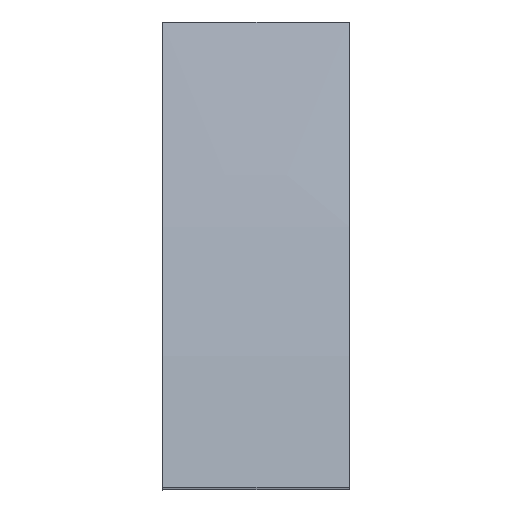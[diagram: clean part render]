
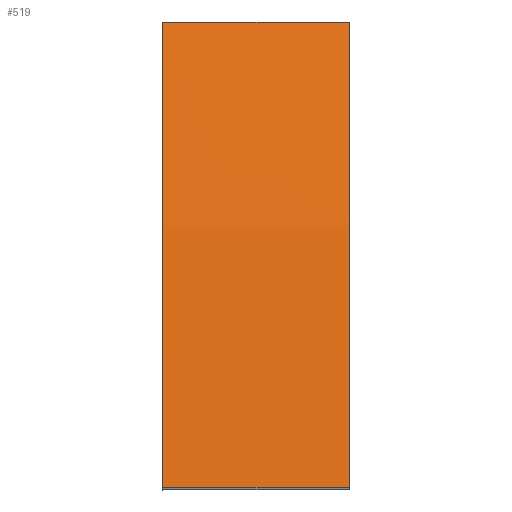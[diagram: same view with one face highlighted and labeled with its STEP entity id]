
A CAD part, top view. The second image highlights one B-rep face of the part: STEP entity #519.
In plain terms, the highlighted free-form (B-spline) face has degree [3, 3] with [4, 4] control points.
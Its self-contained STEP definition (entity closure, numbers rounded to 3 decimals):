
#5 = ORIENTED_EDGE ( 'NONE', *, *, #472, .F. ) ;
#14 = CARTESIAN_POINT ( 'NONE',  ( 9.333, 11.885, 58.035 ) ) ;
#16 = VECTOR ( 'NONE', #201, 1000. ) ;
#18 = CARTESIAN_POINT ( 'NONE',  ( 0., 23.552, 55.119 ) ) ;
#36 = CARTESIAN_POINT ( 'NONE',  ( 9.333, 0., 60. ) ) ;
#64 = CARTESIAN_POINT ( 'NONE',  ( 14., 11.885, 58.035 ) ) ;
#66 = CARTESIAN_POINT ( 'NONE',  ( 0., 11.885, 58.035 ) ) ;
#70 = CARTESIAN_POINT ( 'NONE',  ( 7., 35., 51.25 ) ) ;
#76 = CARTESIAN_POINT ( 'NONE',  ( 4.667, 0., 60. ) ) ;
#78 = B_SPLINE_SURFACE_WITH_KNOTS ( 'NONE', 3, 3, ( 
 ( #188, #146, #152, #443 ),
 ( #319, #317, #448, #496 ),
 ( #64, #14, #536, #66 ),
 ( #235, #36, #76, #288 ) ),
 .UNSPECIFIED., .F., .F., .F.,
 ( 4, 4 ),
 ( 4, 4 ),
 ( 0.499, 0.5 ),
 ( 0., 1. ),
 .UNSPECIFIED. ) ;
#106 = LINE ( 'NONE', #70, #16 ) ;
#145 = VERTEX_POINT ( 'NONE', #368 ) ;
#146 = CARTESIAN_POINT ( 'NONE',  ( 9.333, 35., 51.25 ) ) ;
#149 = CARTESIAN_POINT ( 'NONE',  ( 14., 23.552, 55.119 ) ) ;
#152 = CARTESIAN_POINT ( 'NONE',  ( 4.667, 35., 51.25 ) ) ;
#154 = CARTESIAN_POINT ( 'NONE',  ( 7., 0., 60. ) ) ;
#188 = CARTESIAN_POINT ( 'NONE',  ( 14., 35., 51.25 ) ) ;
#190 = CARTESIAN_POINT ( 'NONE',  ( 0., 0., 60. ) ) ;
#201 = DIRECTION ( 'NONE',  ( 1., 0., 0. ) ) ;
#232 = CARTESIAN_POINT ( 'NONE',  ( 14., 35., 51.25 ) ) ;
#235 = CARTESIAN_POINT ( 'NONE',  ( 14., 0., 60. ) ) ;
#268 = B_SPLINE_CURVE_WITH_KNOTS ( 'NONE', 3,
 ( #400, #18, #452, #190 ),
 .UNSPECIFIED., .F., .F.,
 ( 4, 4 ),
 ( 0., 1. ),
 .UNSPECIFIED. ) ;
#276 = LINE ( 'NONE', #154, #379 ) ;
#288 = CARTESIAN_POINT ( 'NONE',  ( 0., 0., 60. ) ) ;
#314 = DIRECTION ( 'NONE',  ( -1., 0., 0. ) ) ;
#315 = VERTEX_POINT ( 'NONE', #524 ) ;
#317 = CARTESIAN_POINT ( 'NONE',  ( 9.333, 23.552, 55.119 ) ) ;
#319 = CARTESIAN_POINT ( 'NONE',  ( 14., 23.552, 55.119 ) ) ;
#337 = VERTEX_POINT ( 'NONE', #563 ) ;
#361 = CARTESIAN_POINT ( 'NONE',  ( 14., 11.885, 58.035 ) ) ;
#368 = CARTESIAN_POINT ( 'NONE',  ( 0., 0., 60. ) ) ;
#379 = VECTOR ( 'NONE', #314, 1000. ) ;
#394 = VERTEX_POINT ( 'NONE', #481 ) ;
#400 = CARTESIAN_POINT ( 'NONE',  ( 0., 35., 51.25 ) ) ;
#403 = ORIENTED_EDGE ( 'NONE', *, *, #504, .T. ) ;
#428 = ORIENTED_EDGE ( 'NONE', *, *, #440, .F. ) ;
#432 = EDGE_LOOP ( 'NONE', ( #470, #428, #5, #403 ) ) ;
#440 = EDGE_CURVE ( 'NONE', #337, #315, #462, .T. ) ;
#443 = CARTESIAN_POINT ( 'NONE',  ( 0., 35., 51.25 ) ) ;
#448 = CARTESIAN_POINT ( 'NONE',  ( 4.667, 23.552, 55.119 ) ) ;
#452 = CARTESIAN_POINT ( 'NONE',  ( 0., 11.885, 58.035 ) ) ;
#462 = B_SPLINE_CURVE_WITH_KNOTS ( 'NONE', 3,
 ( #232, #149, #361, #502 ),
 .UNSPECIFIED., .F., .F.,
 ( 4, 4 ),
 ( 0., 1. ),
 .UNSPECIFIED. ) ;
#470 = ORIENTED_EDGE ( 'NONE', *, *, #480, .F. ) ;
#472 = EDGE_CURVE ( 'NONE', #394, #337, #106, .T. ) ;
#480 = EDGE_CURVE ( 'NONE', #315, #145, #276, .T. ) ;
#481 = CARTESIAN_POINT ( 'NONE',  ( 0., 35., 51.25 ) ) ;
#496 = CARTESIAN_POINT ( 'NONE',  ( 0., 23.552, 55.119 ) ) ;
#502 = CARTESIAN_POINT ( 'NONE',  ( 14., 0., 60. ) ) ;
#504 = EDGE_CURVE ( 'NONE', #394, #145, #268, .T. ) ;
#519 = ADVANCED_FACE ( 'NONE', ( #531 ), #78, .F. ) ;
#524 = CARTESIAN_POINT ( 'NONE',  ( 14., 0., 60. ) ) ;
#531 = FACE_OUTER_BOUND ( 'NONE', #432, .T. ) ;
#536 = CARTESIAN_POINT ( 'NONE',  ( 4.667, 11.885, 58.035 ) ) ;
#563 = CARTESIAN_POINT ( 'NONE',  ( 14., 35., 51.25 ) ) ;
